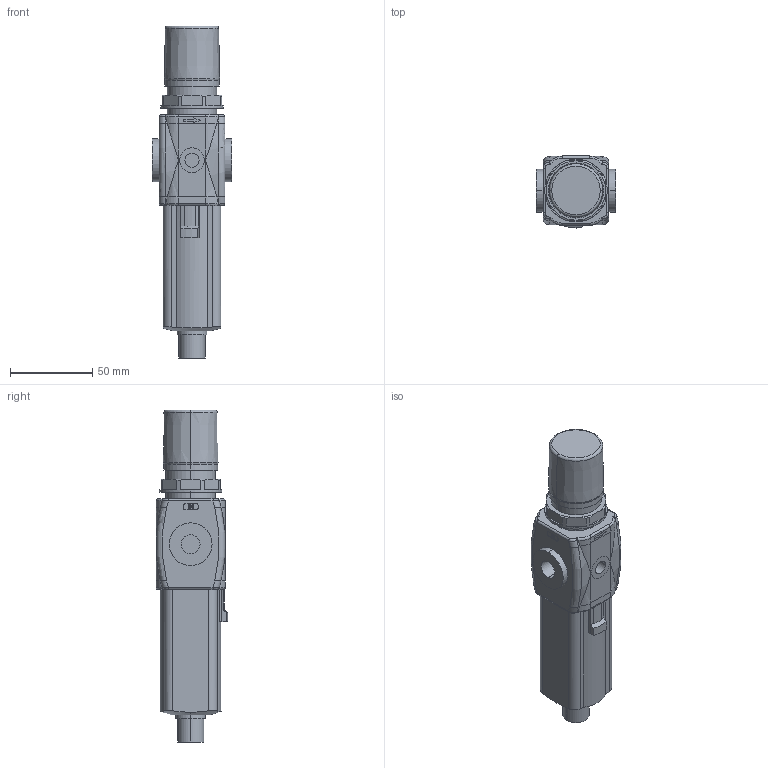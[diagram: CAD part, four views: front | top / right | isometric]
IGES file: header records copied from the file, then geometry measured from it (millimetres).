
Global section: file name: No Iges File Name specified; native system: Autodesk Inventor 2010; preprocessor: AutoDesk Inventor Iges Exporter R2010; author: valotma1; date: 20100823.141815; units: millimetre
Bounding box: 48 x 43.6 x 201.6 mm (x, y, z)
Volume: 227615.6 mm3; surface area: 34483.6 mm2
Topology: 2 solids, 2 shells, 353 faces, 852 edges, 544 vertices
Faces by surface type: plane 151, cylinder 69, bspline 64, revolution 35, torus 22, cone 12
